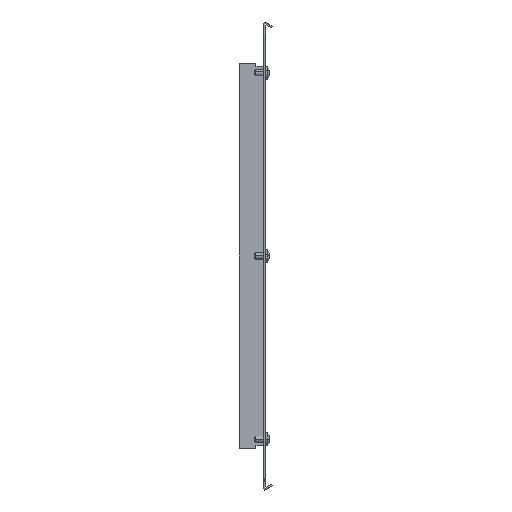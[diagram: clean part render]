
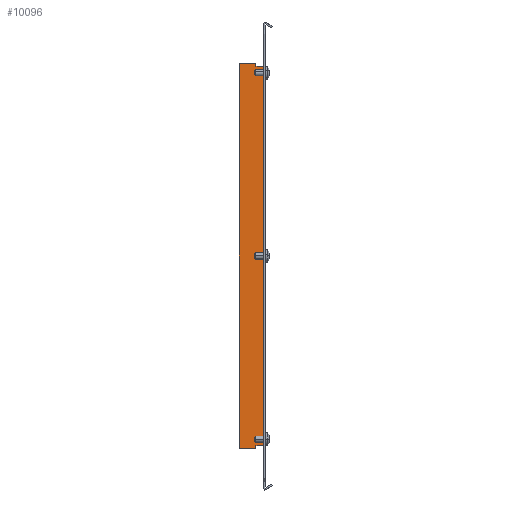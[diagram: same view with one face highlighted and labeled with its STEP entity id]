
A CAD part, left-side view. The second image highlights one B-rep face of the part: STEP entity #10096.
In plain terms, the highlighted planar face has unit normal (-1, 0, 0).
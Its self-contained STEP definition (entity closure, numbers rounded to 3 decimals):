
#122 = VERTEX_POINT ( 'NONE', #2085 ) ;
#166 = CARTESIAN_POINT ( 'NONE',  ( 131.537, 1.315, 181.227 ) ) ;
#236 = EDGE_CURVE ( 'NONE', #6005, #953, #8068, .T. ) ;
#265 = DIRECTION ( 'NONE',  ( 0., -1., 0. ) ) ;
#295 = CARTESIAN_POINT ( 'NONE',  ( 131.537, 1.315, 181.727 ) ) ;
#335 = CARTESIAN_POINT ( 'NONE',  ( 131.537, -5.935, -0.023 ) ) ;
#763 = VERTEX_POINT ( 'NONE', #2847 ) ;
#766 = CARTESIAN_POINT ( 'NONE',  ( 131.537, -4.435, -184.273 ) ) ;
#949 = CARTESIAN_POINT ( 'NONE',  ( 131.537, 17.065, -181.773 ) ) ;
#953 = VERTEX_POINT ( 'NONE', #8487 ) ;
#1223 = VERTEX_POINT ( 'NONE', #4630 ) ;
#1247 = AXIS2_PLACEMENT_3D ( 'NONE', #6481, #2936, #4629 ) ;
#1312 = ORIENTED_EDGE ( 'NONE', *, *, #4590, .F. ) ;
#1490 = ORIENTED_EDGE ( 'NONE', *, *, #9058, .F. ) ;
#1595 = EDGE_CURVE ( 'NONE', #11004, #2685, #4446, .T. ) ;
#1996 = CARTESIAN_POINT ( 'NONE',  ( 131.537, -4.935, -181.273 ) ) ;
#2085 = CARTESIAN_POINT ( 'NONE',  ( 131.537, 17.065, -184.273 ) ) ;
#2195 = LINE ( 'NONE', #5532, #10097 ) ;
#2348 = VECTOR ( 'NONE', #10053, 1000. ) ;
#2390 = CARTESIAN_POINT ( 'NONE',  ( 131.537, 1.315, -0.023 ) ) ;
#2444 = VERTEX_POINT ( 'NONE', #7020 ) ;
#2496 = LINE ( 'NONE', #4447, #8343 ) ;
#2501 = ORIENTED_EDGE ( 'NONE', *, *, #3138, .F. ) ;
#2685 = VERTEX_POINT ( 'NONE', #9279 ) ;
#2739 = EDGE_CURVE ( 'NONE', #2444, #5187, #2496, .T. ) ;
#2746 = VECTOR ( 'NONE', #8072, 1000. ) ;
#2815 = DIRECTION ( 'NONE',  ( 0., 0., 1. ) ) ;
#2835 = ORIENTED_EDGE ( 'NONE', *, *, #10130, .F. ) ;
#2847 = CARTESIAN_POINT ( 'NONE',  ( 131.537, 17.065, -181.773 ) ) ;
#2862 = EDGE_CURVE ( 'NONE', #1223, #9615, #6422, .T. ) ;
#2900 = LINE ( 'NONE', #1996, #7047 ) ;
#2936 = DIRECTION ( 'NONE',  ( -1., 0., 0. ) ) ;
#2957 = VECTOR ( 'NONE', #7048, 1000. ) ;
#3007 = VECTOR ( 'NONE', #265, 1000. ) ;
#3138 = EDGE_CURVE ( 'NONE', #4946, #122, #5296, .T. ) ;
#3227 = CARTESIAN_POINT ( 'NONE',  ( 131.537, -5.935, 181.227 ) ) ;
#3289 = EDGE_CURVE ( 'NONE', #5187, #2685, #4548, .T. ) ;
#3385 = LINE ( 'NONE', #9374, #10065 ) ;
#3442 = CARTESIAN_POINT ( 'NONE',  ( 131.537, 17.065, 184.227 ) ) ;
#3830 = VECTOR ( 'NONE', #2815, 1000. ) ;
#3943 = CARTESIAN_POINT ( 'NONE',  ( 131.537, 1.315, -184.273 ) ) ;
#4045 = LINE ( 'NONE', #6597, #2348 ) ;
#4071 = ORIENTED_EDGE ( 'NONE', *, *, #236, .F. ) ;
#4268 = EDGE_LOOP ( 'NONE', ( #7281, #9003, #4071, #8858, #1490, #8528, #5477, #8221, #9546, #2835, #7348, #2501, #1312, #5581 ) ) ;
#4446 = LINE ( 'NONE', #7945, #2957 ) ;
#4447 = CARTESIAN_POINT ( 'NONE',  ( 131.537, 17.065, -0.023 ) ) ;
#4450 = VECTOR ( 'NONE', #8735, 1000. ) ;
#4548 = LINE ( 'NONE', #7994, #3007 ) ;
#4590 = EDGE_CURVE ( 'NONE', #1223, #4946, #6614, .T. ) ;
#4599 = DIRECTION ( 'NONE',  ( 0., -1., 0. ) ) ;
#4629 = DIRECTION ( 'NONE',  ( 0., 0., 1. ) ) ;
#4630 = CARTESIAN_POINT ( 'NONE',  ( 131.537, 1.315, -181.773 ) ) ;
#4741 = FACE_OUTER_BOUND ( 'NONE', #4268, .T. ) ;
#4946 = VERTEX_POINT ( 'NONE', #3943 ) ;
#5163 = EDGE_CURVE ( 'NONE', #8846, #9615, #3385, .T. ) ;
#5187 = VERTEX_POINT ( 'NONE', #3442 ) ;
#5296 = LINE ( 'NONE', #766, #4450 ) ;
#5477 = ORIENTED_EDGE ( 'NONE', *, *, #1595, .T. ) ;
#5532 = CARTESIAN_POINT ( 'NONE',  ( 131.537, 17.065, 181.227 ) ) ;
#5563 = CARTESIAN_POINT ( 'NONE',  ( 131.537, -4.935, 181.227 ) ) ;
#5578 = VECTOR ( 'NONE', #8501, 1000. ) ;
#5581 = ORIENTED_EDGE ( 'NONE', *, *, #2862, .T. ) ;
#5584 = VECTOR ( 'NONE', #7792, 1000. ) ;
#5613 = EDGE_CURVE ( 'NONE', #11004, #10009, #8328, .T. ) ;
#5836 = DIRECTION ( 'NONE',  ( 0., 0., -1. ) ) ;
#6005 = VERTEX_POINT ( 'NONE', #3227 ) ;
#6246 = EDGE_CURVE ( 'NONE', #10357, #6005, #9725, .T. ) ;
#6381 = DIRECTION ( 'NONE',  ( 0., 0., 1. ) ) ;
#6387 = CARTESIAN_POINT ( 'NONE',  ( 131.537, -4.435, 181.227 ) ) ;
#6422 = LINE ( 'NONE', #7321, #3830 ) ;
#6481 = CARTESIAN_POINT ( 'NONE',  ( 131.537, -4.435, -0.023 ) ) ;
#6597 = CARTESIAN_POINT ( 'NONE',  ( 131.537, -5.935, 181.227 ) ) ;
#6614 = LINE ( 'NONE', #2390, #9758 ) ;
#7020 = CARTESIAN_POINT ( 'NONE',  ( 131.537, 17.065, 181.727 ) ) ;
#7047 = VECTOR ( 'NONE', #4599, 1000. ) ;
#7048 = DIRECTION ( 'NONE',  ( 0., 0., 1. ) ) ;
#7049 = DIRECTION ( 'NONE',  ( 0., 0., 1. ) ) ;
#7281 = ORIENTED_EDGE ( 'NONE', *, *, #5163, .F. ) ;
#7321 = CARTESIAN_POINT ( 'NONE',  ( 131.537, 1.315, -181.773 ) ) ;
#7348 = ORIENTED_EDGE ( 'NONE', *, *, #9918, .T. ) ;
#7792 = DIRECTION ( 'NONE',  ( 0., 0., -1. ) ) ;
#7945 = CARTESIAN_POINT ( 'NONE',  ( 131.537, 1.315, 181.727 ) ) ;
#7957 = LINE ( 'NONE', #949, #5584 ) ;
#7994 = CARTESIAN_POINT ( 'NONE',  ( 131.537, -4.435, 184.227 ) ) ;
#8066 = CARTESIAN_POINT ( 'NONE',  ( 131.537, -4.935, -181.273 ) ) ;
#8068 = LINE ( 'NONE', #335, #10214 ) ;
#8072 = DIRECTION ( 'NONE',  ( 0., -1., 0. ) ) ;
#8221 = ORIENTED_EDGE ( 'NONE', *, *, #3289, .F. ) ;
#8328 = LINE ( 'NONE', #9968, #5578 ) ;
#8343 = VECTOR ( 'NONE', #7049, 1000. ) ;
#8487 = CARTESIAN_POINT ( 'NONE',  ( 131.537, -5.935, -181.273 ) ) ;
#8501 = DIRECTION ( 'NONE',  ( 0., 0., -1. ) ) ;
#8528 = ORIENTED_EDGE ( 'NONE', *, *, #5613, .F. ) ;
#8735 = DIRECTION ( 'NONE',  ( 0., 1., 0. ) ) ;
#8846 = VERTEX_POINT ( 'NONE', #8066 ) ;
#8858 = ORIENTED_EDGE ( 'NONE', *, *, #6246, .F. ) ;
#8977 = DIRECTION ( 'NONE',  ( 0., 0., -1. ) ) ;
#9003 = ORIENTED_EDGE ( 'NONE', *, *, #10614, .T. ) ;
#9058 = EDGE_CURVE ( 'NONE', #10009, #10357, #4045, .T. ) ;
#9279 = CARTESIAN_POINT ( 'NONE',  ( 131.537, 1.315, 184.227 ) ) ;
#9374 = CARTESIAN_POINT ( 'NONE',  ( 131.537, 17.065, -181.273 ) ) ;
#9546 = ORIENTED_EDGE ( 'NONE', *, *, #2739, .F. ) ;
#9615 = VERTEX_POINT ( 'NONE', #10640 ) ;
#9725 = LINE ( 'NONE', #6387, #2746 ) ;
#9758 = VECTOR ( 'NONE', #5836, 1000. ) ;
#9918 = EDGE_CURVE ( 'NONE', #763, #122, #7957, .T. ) ;
#9968 = CARTESIAN_POINT ( 'NONE',  ( 131.537, 1.315, 181.727 ) ) ;
#10009 = VERTEX_POINT ( 'NONE', #166 ) ;
#10053 = DIRECTION ( 'NONE',  ( 0., -1., 0. ) ) ;
#10065 = VECTOR ( 'NONE', #11189, 1000. ) ;
#10096 = ADVANCED_FACE ( 'NONE', ( #4741 ), #10686, .T. ) ;
#10097 = VECTOR ( 'NONE', #6381, 1000. ) ;
#10130 = EDGE_CURVE ( 'NONE', #763, #2444, #2195, .T. ) ;
#10214 = VECTOR ( 'NONE', #8977, 1000. ) ;
#10357 = VERTEX_POINT ( 'NONE', #5563 ) ;
#10614 = EDGE_CURVE ( 'NONE', #8846, #953, #2900, .T. ) ;
#10640 = CARTESIAN_POINT ( 'NONE',  ( 131.537, 1.315, -181.273 ) ) ;
#10686 = PLANE ( 'NONE',  #1247 ) ;
#11004 = VERTEX_POINT ( 'NONE', #295 ) ;
#11189 = DIRECTION ( 'NONE',  ( 0., 1., 0. ) ) ;
